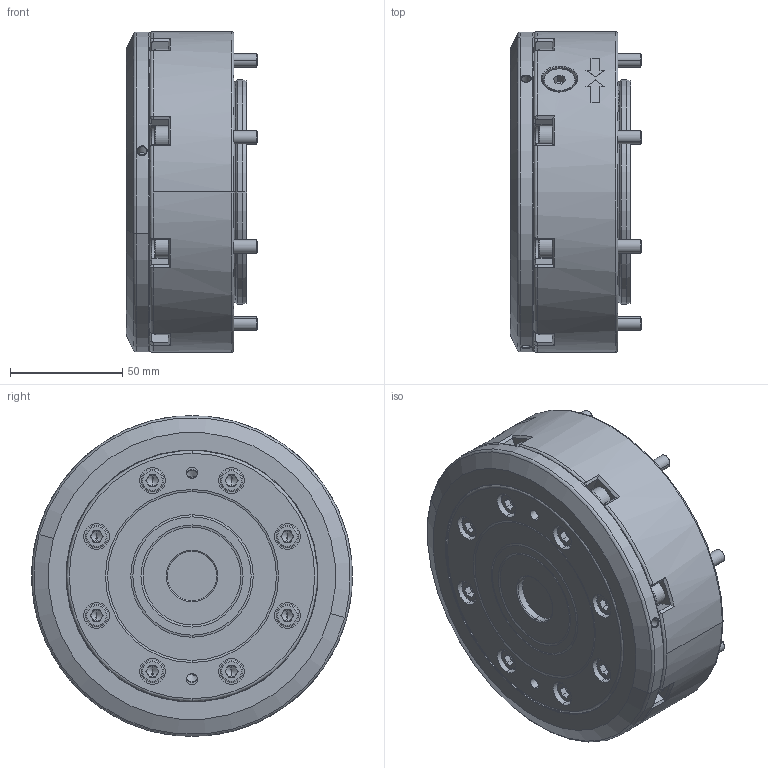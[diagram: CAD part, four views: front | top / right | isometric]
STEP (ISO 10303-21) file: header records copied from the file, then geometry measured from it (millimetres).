
FILE_DESCRIPTION (( 'STEP AP203' ), '1' );
FILE_NAME ('LQFLD-20.3.STEP', '2019-08-15T01:46:34', ( '' ), ( '' ), 'SwSTEP 2.0', 'SolidWorks 2018', '' );
FILE_SCHEMA (( 'CONFIG_CONTROL_DESIGN' ));
Length unit declared in the file: millimetre
Products named in the file (9): LQNC-10; LQFLD-20.3; 楊擘攫; 揤踡遠; G1-8黑芛-DIN3852; socket set screw cup point_din_DIN 916 - M3 x 4-S; 2.79x0.71-NBR70-窪伎; 6X2-NBR70-窪伎; socket head cap screw_din_DIN 912 M6 x 40 --- 24N
Assembly tree (18 placements, depth 2):
  LQFLD-20.3
    楊擘攫
    揤踡遠
    G1-8黑芛-DIN3852  x2
    socket set screw cup point_din_DIN 916 - M3 x 4-S  x2
    2.79x0.71-NBR70-窪伎
    6X2-NBR70-窪伎  x2
    socket head cap screw_din_DIN 912 M6 x 40 --- 24N  x8
    LQNC-10
Bounding box: 58.7 x 143 x 143 mm (x, y, z)
Volume: 738831.7 mm3; surface area: 139803.6 mm2
Topology: 26 solids, 26 shells, 1088 faces, 2481 edges, 1460 vertices
Faces by surface type: plane 368, cone 292, cylinder 254, torus 121, bspline 53
Entity records: 33429 total; most frequent: CARTESIAN_POINT 13880, DIRECTION 4010, ORIENTED_EDGE 3650, EDGE_CURVE 1825, AXIS2_PLACEMENT_3D 1616, VERTEX_POINT 1102, EDGE_LOOP 933, CIRCLE 833
